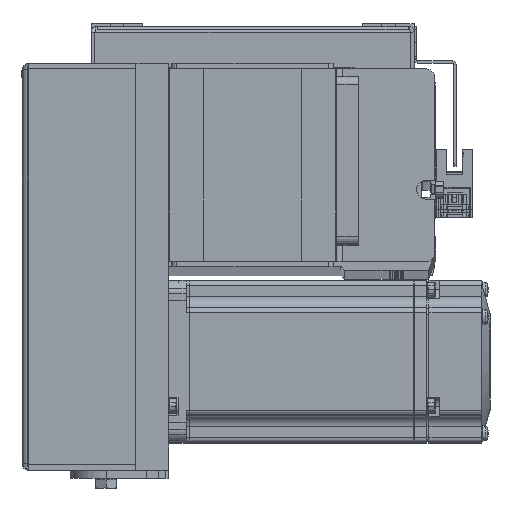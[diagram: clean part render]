
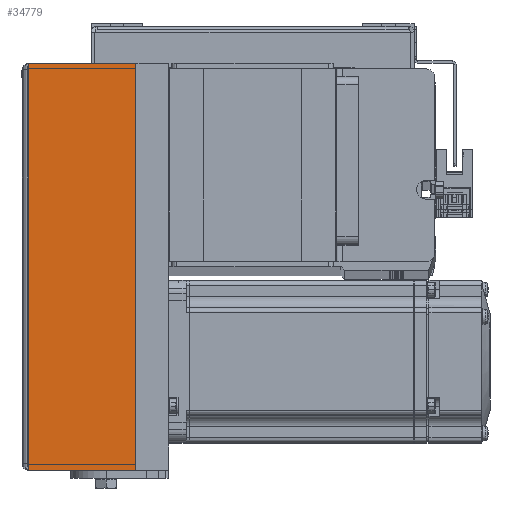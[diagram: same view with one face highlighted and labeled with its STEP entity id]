
A CAD part, top view. The second image highlights one B-rep face of the part: STEP entity #34779.
In plain terms, the highlighted planar face has unit normal (0, 0, 1) as drawn and (0, -1, 0) by its records, which use the part's own axes.
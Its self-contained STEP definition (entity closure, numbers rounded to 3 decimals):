
#884 = VERTEX_POINT ( 'NONE', #20271 ) ;
#1395 = DIRECTION ( 'NONE',  ( 0., 0., -1. ) ) ;
#3789 = CARTESIAN_POINT ( 'NONE',  ( 0., -36., 12. ) ) ;
#4164 = CARTESIAN_POINT ( 'NONE',  ( 75., -36., 51.5 ) ) ;
#5756 = VERTEX_POINT ( 'NONE', #14719 ) ;
#7321 = ORIENTED_EDGE ( 'NONE', *, *, #17476, .F. ) ;
#8724 = LINE ( 'NONE', #20779, #17196 ) ;
#11335 = EDGE_CURVE ( 'NONE', #884, #5756, #30800, .T. ) ;
#11427 = VERTEX_POINT ( 'NONE', #4164 ) ;
#11484 = DIRECTION ( 'NONE',  ( 0., 0., -1. ) ) ;
#11504 = VECTOR ( 'NONE', #24883, 1000. ) ;
#12076 = FACE_OUTER_BOUND ( 'NONE', #26850, .T. ) ;
#12926 = EDGE_CURVE ( 'NONE', #11427, #5756, #22682, .T. ) ;
#14667 = PLANE ( 'NONE',  #28015 ) ;
#14719 = CARTESIAN_POINT ( 'NONE',  ( 75., -36., 12. ) ) ;
#15886 = DIRECTION ( 'NONE',  ( 1., 0., 0. ) ) ;
#17196 = VECTOR ( 'NONE', #11484, 1000. ) ;
#17476 = EDGE_CURVE ( 'NONE', #34382, #11427, #31232, .T. ) ;
#19136 = CARTESIAN_POINT ( 'NONE',  ( 75., -36., 51.5 ) ) ;
#20271 = CARTESIAN_POINT ( 'NONE',  ( -75., -36., 12. ) ) ;
#20779 = CARTESIAN_POINT ( 'NONE',  ( -75., -36., 51.5 ) ) ;
#22396 = ORIENTED_EDGE ( 'NONE', *, *, #11335, .T. ) ;
#22682 = LINE ( 'NONE', #19136, #29881 ) ;
#24115 = DIRECTION ( 'NONE',  ( 0., 0., -1. ) ) ;
#24883 = DIRECTION ( 'NONE',  ( 1., 0., 0. ) ) ;
#26719 = CARTESIAN_POINT ( 'NONE',  ( -75., -36., 51.5 ) ) ;
#26850 = EDGE_LOOP ( 'NONE', ( #7321, #30087, #22396, #35048 ) ) ;
#28015 = AXIS2_PLACEMENT_3D ( 'NONE', #38522, #35744, #24115 ) ;
#29881 = VECTOR ( 'NONE', #1395, 1000. ) ;
#30087 = ORIENTED_EDGE ( 'NONE', *, *, #33194, .T. ) ;
#30800 = LINE ( 'NONE', #3789, #11504 ) ;
#30843 = CARTESIAN_POINT ( 'NONE',  ( 75., -36., 51.5 ) ) ;
#31232 = LINE ( 'NONE', #30843, #33532 ) ;
#33194 = EDGE_CURVE ( 'NONE', #34382, #884, #8724, .T. ) ;
#33532 = VECTOR ( 'NONE', #15886, 1000. ) ;
#34382 = VERTEX_POINT ( 'NONE', #26719 ) ;
#34779 = ADVANCED_FACE ( 'NONE', ( #12076 ), #14667, .F. ) ;
#35048 = ORIENTED_EDGE ( 'NONE', *, *, #12926, .F. ) ;
#35744 = DIRECTION ( 'NONE',  ( 0., 1., 0. ) ) ;
#38522 = CARTESIAN_POINT ( 'NONE',  ( 0., -36., 52. ) ) ;
